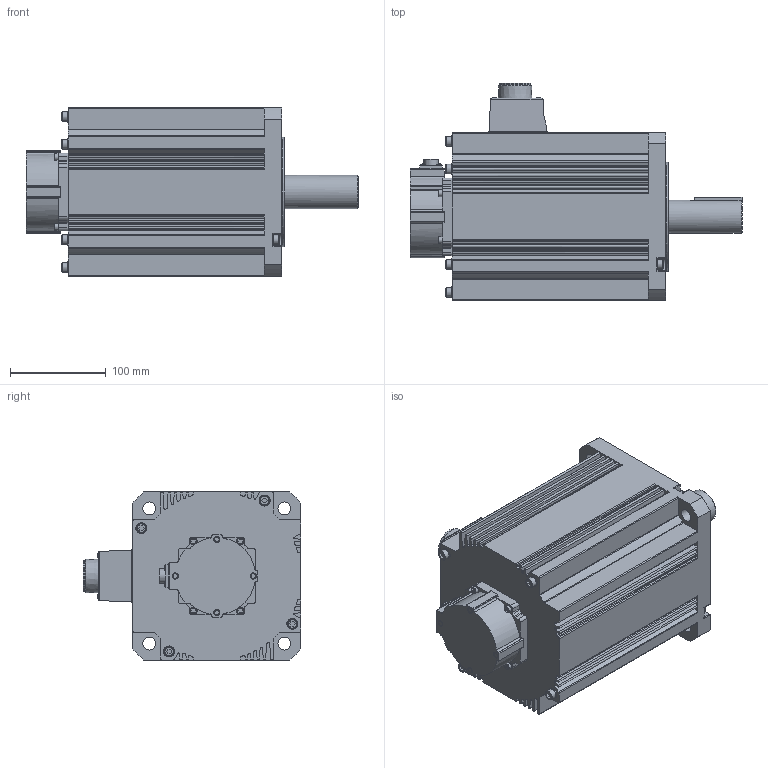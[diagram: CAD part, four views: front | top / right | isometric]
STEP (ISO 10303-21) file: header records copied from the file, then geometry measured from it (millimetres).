
FILE_DESCRIPTION( ( 'STEP AP0' ), '1' );
FILE_NAME( '//expscmdclustefs.cadenas.external/client_exchange/iodir/jobs/output/wkb64914029_no0/STEP/MHME504G1G_2_03.stp', ' ', ( ' ' ), ( ' ' ), 'PSStep 15.0.47', 'PARTsolutions', ' ' );
FILE_SCHEMA( ( 'CONFIG_CONTROL_DESIGN' ) );
Length unit declared in the file: millimetre
Products named in the file (1): HI_MHME504G1G
Bounding box: 347.5 x 228 x 176 mm (x, y, z)
Volume: 6551520 mm3; surface area: 315851.1 mm2
Topology: 1 solids, 1 shells, 583 faces, 1524 edges, 995 vertices
Faces by surface type: plane 307, cylinder 229, cone 22, torus 13, sphere 8, bspline 4
Full cylindrical faces by diameter (mm): 2.459 x1, 5.5 x4, 6.5 x4, 7 x4, 10 x8, 11.5 x8, 13.5 x4, 14.8 x1, 32.9 x1, 35 x1, 52 x1, 58 x1, 67 x1, 105 x1, 114.3 x1
Entity records: 17764 total; most frequent: CARTESIAN_POINT 3379, DIRECTION 3068, ORIENTED_EDGE 2844, EDGE_CURVE 1422, AXIS2_PLACEMENT_3D 1101, VERTEX_POINT 984, LINE 866, VECTOR 866
